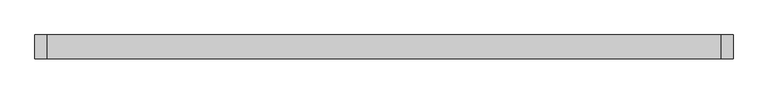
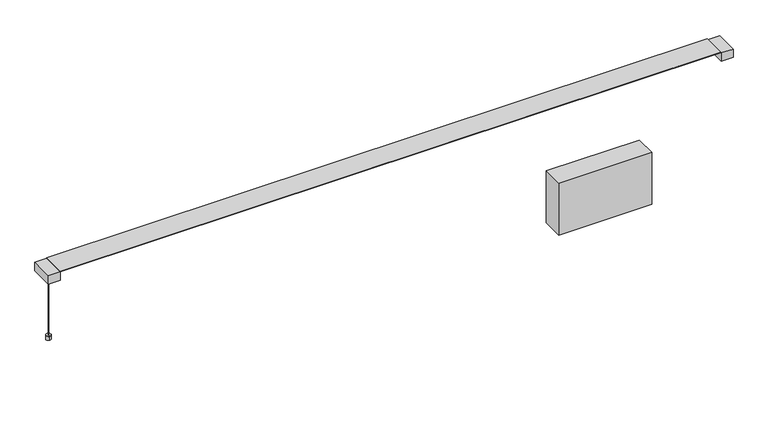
"""IFC4 building model written with IfcOpenShell, lengths in millimetres: light fixture geometry, Fabbian.Pivot F39 (F39 A01A 01,F39 A01A 21,F39 A01A 76,F39 A02A 01,F39 A02A 21,F39 A02A 76) : F39 A01A 01."""

from ifc_helpers import new_model, si_unit, point, frame, frame_2d, origin, origin_with_axes, place, context, project, spatial, polyline, circle_curve, trimmed, segment, composite_curve, outline, extrude, source, transform, mapped, element, save


def light_fixture_d05c8b2b(model_context):
    return source(origin(), model_context, "Body", "SweptSolid", [
        extrude(outline(polyline([(619.1350388, -24.9666442), (399.1348055, -24.9666442), (399.1348055, 25.0334567), (619.1350388, 25.0334567), (619.1350388, -24.9666442)])), frame((0.0, 0.0, -142.875), z_axis=(0.0, 0.0, 1.0), x_axis=(1.0, 0.0, 0.0)), (0.0, 0.0, 1.0), 130.175),
        extrude(outline(composite_curve([segment(trimmed(circle_curve(frame_2d((-794.2559882, 0.0)), 0.4949808), [point((-794.750969, 0.0))], [point((-793.7610074, 0.0))], False, "CARTESIAN"), True, "CONTINUOUS"), segment(trimmed(circle_curve(frame_2d((-794.2559882, 0.0)), 0.4949808), [point((-793.7610074, 0.0))], [point((-794.750969, 0.0))], False, "CARTESIAN"), True, "CONTINUOUS")], self_intersect=False)), origin_with_axes(), (0.0, 0.0, 1.0), 159.6242394),
        extrude(outline(polyline([(0.4107254, 159.893756), (0.4107254, 160.681594), (-0.4107259, 160.681594), (-0.4107259, 159.893756), (-25.5497693, 181.0787506), (26.3879175, 181.0787506), (0.4107254, 159.893756)])), frame((-782.3132834, 0.0, 0.0), z_axis=(1.0, 0.0, 0.0), x_axis=(0.0, 1.0, 0.0)), (0.0, 0.0, 1.0), 1564.6265668),
        extrude(outline(polyline([(-782.3132834, -27.7285043), (-810.5140956, -27.7285043), (-810.5140956, 27.7953166), (-782.3132834, 27.7953166), (-782.3132834, -27.7285043)])), frame((0.0, 0.0, 159.6242394), z_axis=(0.0, 0.0, 1.0), x_axis=(1.0, 0.0, 0.0)), (0.0, 0.0, 1.0), 20.8761838),
        extrude(outline(polyline([(782.3132834, -27.7285042), (782.3132834, 27.7953167), (810.5140956, 27.7953167), (810.5140956, -27.7285042), (782.3132834, -27.7285042)])), frame((0.0, 0.0, 159.6242394), z_axis=(0.0, 0.0, 1.0), x_axis=(1.0, 0.0, 0.0)), (0.0, 0.0, 1.0), 20.8761838),
        extrude(outline(polyline([(0.0, 0.8214513), (1564.6265668, 0.8214513), (1564.6265668, 0.0), (0.0, 0.0), (0.0, 0.8214513)])), frame((-782.3132834, -0.4107259, 159.893756), z_axis=(-5.7155291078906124e-11, 0.0, 1.0), x_axis=(1.0, 0.0, 5.7155291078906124e-11)), (0.0, 0.0, 1.0), 0.787838),
        extrude(outline(polyline([(781.7488887, 27.7780006), (781.7488887, -27.7779986), (-782.3132834, -27.7779986), (-782.3132834, 27.7780006), (781.7488887, 27.7780006)])), frame((0.0, 0.0, 181.0787506), z_axis=(0.0, 0.0, 1.0), x_axis=(1.0, 0.0, 0.0)), (0.0, 0.0, 1.0), 1.1514277),
        extrude(outline(composite_curve([segment(trimmed(circle_curve(frame_2d((-794.2560169, 0.4556113)), 5.8155806), [point((-795.0837096, -5.3007681))], [point((-793.4283243, 6.2119906))], False, "CARTESIAN"), True, "CONTINUOUS"), segment(trimmed(circle_curve(frame_2d((-794.2560169, 0.4556113)), 5.8155806), [point((-793.4283243, 6.2119906))], [point((-795.0837096, -5.3007681))], False, "CARTESIAN"), True, "CONTINUOUS")], self_intersect=False)), origin_with_axes(), (0.0, 0.0, 1.0), 9.6582083),
    ])


if __name__ == "__main__":
    model = new_model("IFC4")
    model_context = context("Model", 3, world=origin())
    ifc_project = project(units=[si_unit("LENGTHUNIT", "METRE", prefix="MILLI")], contexts=[model_context])
    site = spatial("IfcSite", under=ifc_project)
    building = spatial("IfcBuilding", under=site)
    placement = place(None, origin())
    light_fixture_shape = light_fixture_d05c8b2b(model_context)
    element("IfcLightFixture", 1, ObjectType="Fabbian.Pivot F39 (F39 A01A 01,F39 A01A 21,F39 A01A 76,F39 A02A 01,F39 A02A 21,F39 A02A 76) : F39 A01A 01", at=placement, inside=building, context=model_context, shape_type="MappedRepresentation", body=[
        mapped(light_fixture_shape, transform((0.0, 0.0, 0.0), x_axis=(1.0, 0.0, 0.0), y_axis=(0.0, 1.0, 0.0), z_axis=(0.0, 0.0, 1.0))),
    ])
    save(model, "model.ifc")
